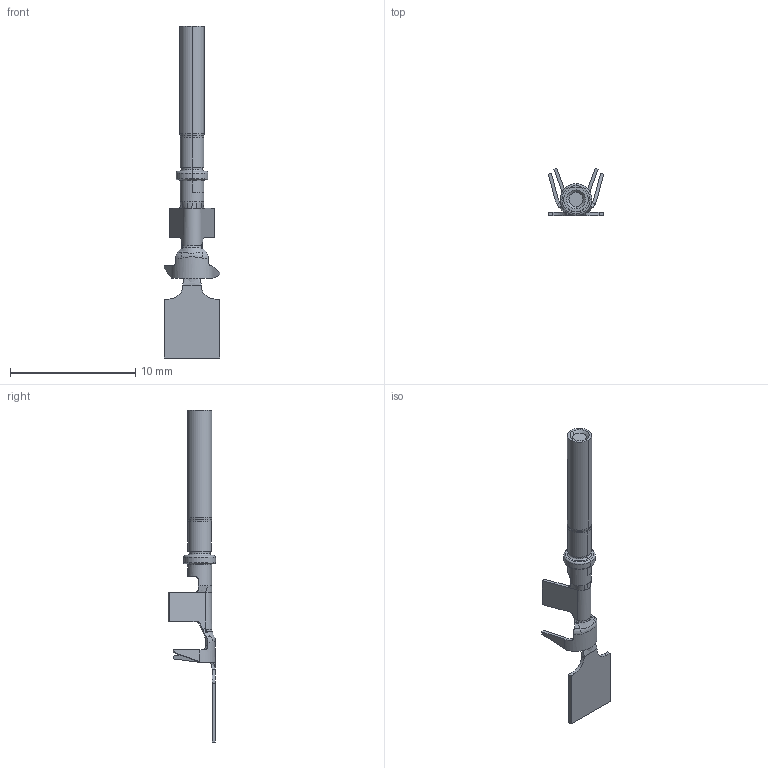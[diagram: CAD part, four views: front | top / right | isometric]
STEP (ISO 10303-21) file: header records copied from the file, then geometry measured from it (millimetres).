
FILE_DESCRIPTION((''),'2;1');
FILE_NAME('C-1062-20-0122','2014-05-10T',('workeradm'),('Tyco Electronics Ltd.'),'PRO/ENGINEER BY PARAMETRIC TECHNOLOGY CORPORATION, 2013050','PRO/ENGINEER BY PARAMETRIC TECHNOLOGY CORPORATION, 2013050','');
FILE_SCHEMA(('AUTOMOTIVE_DESIGN { 1 0 10303 214 1 1 1 1 }'));
Length unit declared in the file: millimetre
Products named in the file (1): C-1062-20-0122
Bounding box: 4.4 x 3.77 x 26.46 mm (x, y, z)
Volume: 52.9 mm3; surface area: 222.8 mm2
Topology: 1 solids, 1 shells, 125 faces, 325 edges, 206 vertices
Faces by surface type: bspline 46, plane 43, cylinder 24, torus 10, cone 2
Entity records: 8946 total; most frequent: CARTESIAN_POINT 5956, ORIENTED_EDGE 650, DIRECTION 495, EDGE_CURVE 325, VERTEX_POINT 206, AXIS2_PLACEMENT_3D 176, VECTOR 143, LINE 143
